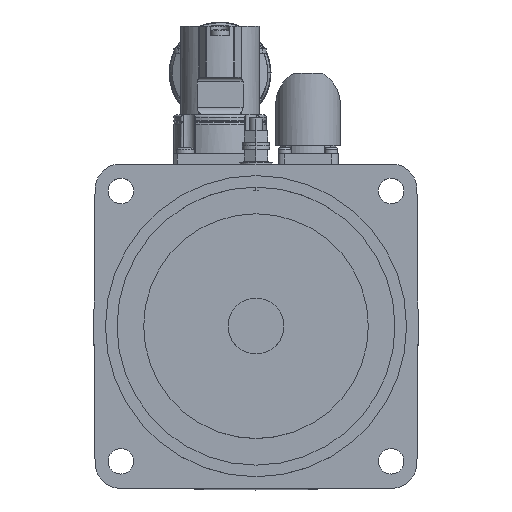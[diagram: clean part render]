
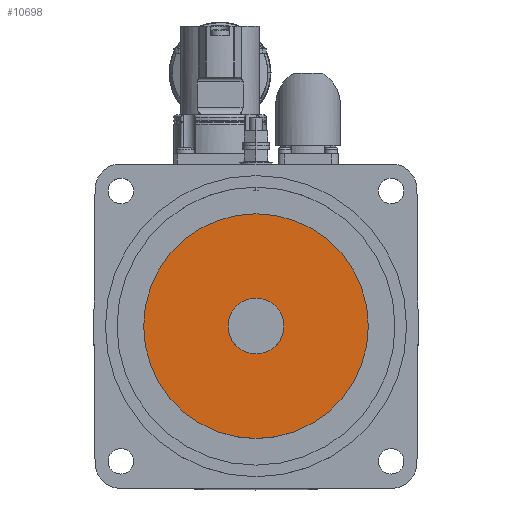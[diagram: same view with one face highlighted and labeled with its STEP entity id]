
A CAD part, top view. The second image highlights one B-rep face of the part: STEP entity #10698.
In plain terms, the highlighted planar face has unit normal (0, 0, 1).
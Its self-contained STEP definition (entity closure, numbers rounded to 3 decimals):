
#727 = CIRCLE ( 'NONE', #3619, 12. ) ;
#766 = CIRCLE ( 'NONE', #3642, 48.5 ) ;
#801 = CIRCLE ( 'NONE', #3654, 48.5 ) ;
#810 = CIRCLE ( 'NONE', #3657, 12. ) ;
#2826 = CARTESIAN_POINT ( 'NONE',  ( 0., 0., -4.5 ) ) ;
#2834 = DIRECTION ( 'NONE',  ( 0., 0., 1. ) ) ;
#2835 = DIRECTION ( 'NONE',  ( -1., 0., 0. ) ) ;
#2920 = CARTESIAN_POINT ( 'NONE',  ( 0., 0., -4.5 ) ) ;
#2921 = DIRECTION ( 'NONE',  ( 0., 0., -1. ) ) ;
#2922 = DIRECTION ( 'NONE',  ( -1., 0., 0. ) ) ;
#2973 = CARTESIAN_POINT ( 'NONE',  ( 0., 0., -4.5 ) ) ;
#2974 = DIRECTION ( 'NONE',  ( 0., 0., -1. ) ) ;
#2975 = DIRECTION ( 'NONE',  ( -1., 0., 0. ) ) ;
#2986 = CARTESIAN_POINT ( 'NONE',  ( 0., 0., -4.5 ) ) ;
#2987 = DIRECTION ( 'NONE',  ( 0., 0., 1. ) ) ;
#2988 = DIRECTION ( 'NONE',  ( -1., 0., 0. ) ) ;
#3619 = AXIS2_PLACEMENT_3D ( 'NONE', #2826, #2834, #2835 ) ;
#3642 = AXIS2_PLACEMENT_3D ( 'NONE', #2920, #2921, #2922 ) ;
#3654 = AXIS2_PLACEMENT_3D ( 'NONE', #2973, #2974, #2975 ) ;
#3657 = AXIS2_PLACEMENT_3D ( 'NONE', #2986, #2987, #2988 ) ;
#10698 = ADVANCED_FACE ( 'NONE', ( #27966, #27971 ), #27496, .F. ) ;
#11579 = VERTEX_POINT ( 'NONE', #29712 ) ;
#11580 = VERTEX_POINT ( 'NONE', #29713 ) ;
#11585 = VERTEX_POINT ( 'NONE', #29718 ) ;
#11586 = VERTEX_POINT ( 'NONE', #29719 ) ;
#12196 = EDGE_LOOP ( 'NONE', ( #15174, #15175 ) ) ;
#12199 = EDGE_LOOP ( 'NONE', ( #15176, #15177 ) ) ;
#14007 = EDGE_CURVE ( 'NONE', #11579, #11580, #727, .T. ) ;
#14039 = EDGE_CURVE ( 'NONE', #11585, #11586, #766, .T. ) ;
#14061 = EDGE_CURVE ( 'NONE', #11586, #11585, #801, .T. ) ;
#14066 = EDGE_CURVE ( 'NONE', #11580, #11579, #810, .T. ) ;
#15174 = ORIENTED_EDGE ( 'NONE', *, *, #14039, .F. ) ;
#15175 = ORIENTED_EDGE ( 'NONE', *, *, #14061, .F. ) ;
#15176 = ORIENTED_EDGE ( 'NONE', *, *, #14066, .F. ) ;
#15177 = ORIENTED_EDGE ( 'NONE', *, *, #14007, .F. ) ;
#24979 = AXIS2_PLACEMENT_3D ( 'NONE', #27495, #27497, #27498 ) ;
#27495 = CARTESIAN_POINT ( 'NONE',  ( 0., 48.5, -4.5 ) ) ;
#27496 = PLANE ( 'NONE',  #24979 ) ;
#27497 = DIRECTION ( 'NONE',  ( 0., 0., -1. ) ) ;
#27498 = DIRECTION ( 'NONE',  ( -1., 0., 0. ) ) ;
#27966 = FACE_OUTER_BOUND ( 'NONE', #12196, .T. ) ;
#27971 = FACE_BOUND ( 'NONE', #12199, .T. ) ;
#29712 = CARTESIAN_POINT ( 'NONE',  ( 12., 0., -4.5 ) ) ;
#29713 = CARTESIAN_POINT ( 'NONE',  ( -12., 0., -4.5 ) ) ;
#29718 = CARTESIAN_POINT ( 'NONE',  ( -48.5, 0., -4.5 ) ) ;
#29719 = CARTESIAN_POINT ( 'NONE',  ( 48.5, 0., -4.5 ) ) ;
